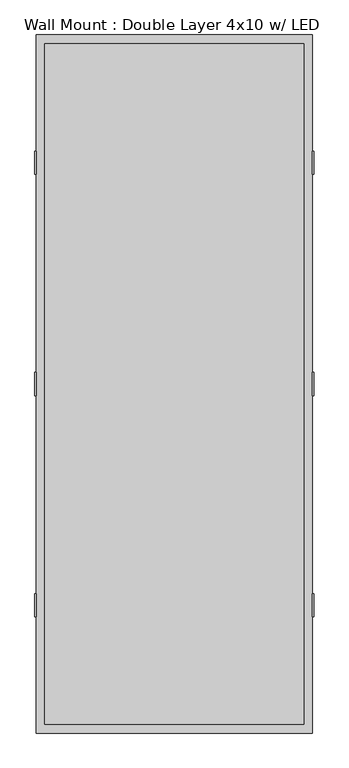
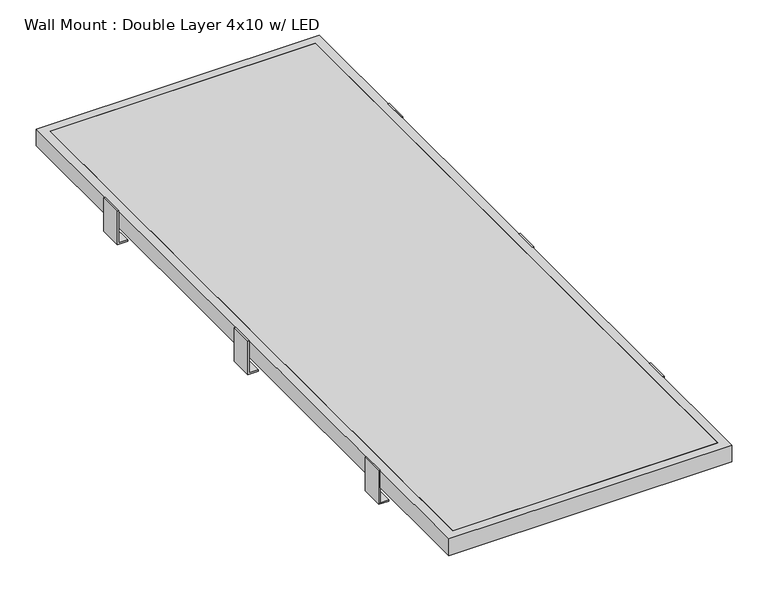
"""IFC4 building model written with IfcOpenShell, lengths in millimetres: proxy geometry, Wall Mount : Double Layer 4x10 w/ LED."""

from ifc_helpers import new_model, si_unit, frame, origin, place, context, project, spatial, polyline, outline, extrude, source, transform, mapped, element, save


def wall_mount_double_layer_4x10_w_led_b86ccbe1(model_context):
    return source(origin(), model_context, "Body", "SweptSolid", [
        extrude(outline(polyline([(571.5, 1501.775), (571.5, -1501.775), (-571.5, -1501.775), (-571.5, 1501.775), (571.5, 1501.775)])), frame((0.0, 0.0, 76.2), z_axis=(0.0, 0.0, 1.0), x_axis=(1.0, 0.0, 0.0)), (0.0, 0.0, 1.0), 76.2),
        extrude(outline(polyline([(571.5, 1501.775), (571.5, -1501.775), (-571.5, -1501.775), (-571.5, 1501.775), (571.5, 1501.775)]), holes=[polyline([(565.15, 1495.425), (-565.15, 1495.425), (-565.15, -1495.425), (565.15, -1495.425), (565.15, 1495.425)])]), frame((0.0, 0.0, 79.375), z_axis=(0.0, 0.0, 1.0), x_axis=(1.0, 0.0, 0.0)), (0.0, 0.0, 1.0), 63.5),
        extrude(outline(polyline([(571.5, 1501.775), (571.5, -1501.775), (-571.5, -1501.775), (-571.5, 1501.775), (571.5, 1501.775)])), frame((0.0, 0.0, 79.375), z_axis=(0.0, 0.0, 1.0), x_axis=(1.0, 0.0, 0.0)), (0.0, 0.0, 1.0), 6.35),
        extrude(outline(polyline([(0.0, -615.95), (0.0, -571.5), (6.35, -571.5), (6.35, -609.6), (152.4, -609.6), (152.4, -615.95), (0.0, -615.95)])), frame((0.0, -50.8, 0.0), z_axis=(0.0, 1.0, 0.0), x_axis=(0.0, 0.0, 1.0)), (0.0, 0.0, 1.0), 101.6),
        extrude(outline(polyline([(0.0, 615.95), (152.4, 615.95), (152.4, 609.6), (6.35, 609.6), (6.35, 571.5), (0.0, 571.5), (0.0, 615.95)])), frame((0.0, -50.8, 0.0), z_axis=(0.0, 1.0, 0.0), x_axis=(0.0, 0.0, 1.0)), (0.0, 0.0, 1.0), 101.6),
        extrude(outline(polyline([(0.0, -615.95), (0.0, -571.5), (6.35, -571.5), (6.35, -609.6), (152.4, -609.6), (152.4, -615.95), (0.0, -615.95)])), frame((0.0, 924.9833333, 0.0), z_axis=(0.0, 1.0, 0.0), x_axis=(0.0, 0.0, 1.0)), (0.0, 0.0, 1.0), 101.6),
        extrude(outline(polyline([(0.0, 615.95), (152.4, 615.95), (152.4, 609.6), (6.35, 609.6), (6.35, 571.5), (0.0, 571.5), (0.0, 615.95)])), frame((0.0, 924.9833333, 0.0), z_axis=(0.0, 1.0, 0.0), x_axis=(0.0, 0.0, 1.0)), (0.0, 0.0, 1.0), 101.6),
        extrude(outline(polyline([(0.0, -615.95), (0.0, -571.5), (6.35, -571.5), (6.35, -609.6), (152.4, -609.6), (152.4, -615.95), (0.0, -615.95)])), frame((0.0, -1026.5833333, 0.0), z_axis=(0.0, 1.0, 0.0), x_axis=(0.0, 0.0, 1.0)), (0.0, 0.0, 1.0), 101.6),
        extrude(outline(polyline([(0.0, 615.95), (152.4, 615.95), (152.4, 609.6), (6.35, 609.6), (6.35, 571.5), (0.0, 571.5), (0.0, 615.95)])), frame((0.0, -1026.5833333, 0.0), z_axis=(0.0, 1.0, 0.0), x_axis=(0.0, 0.0, 1.0)), (0.0, 0.0, 1.0), 101.6),
        extrude(outline(polyline([(571.5, 1501.775), (571.5, -1501.775), (-571.5, -1501.775), (-571.5, 1501.775), (571.5, 1501.775)])), frame((0.0, 0.0, 142.875), z_axis=(0.0, 0.0, 1.0), x_axis=(1.0, 0.0, 0.0)), (0.0, 0.0, 1.0), 6.35),
        extrude(outline(polyline([(609.6, 1539.875), (609.6, -1539.875), (-609.6, -1539.875), (-609.6, 1539.875), (609.6, 1539.875)]), holes=[polyline([(571.5, 1501.775), (-571.5, 1501.775), (-571.5, -1501.775), (571.5, -1501.775), (571.5, 1501.775)])]), frame((0.0, 0.0, 76.2), z_axis=(0.0, 0.0, 1.0), x_axis=(1.0, 0.0, 0.0)), (0.0, 0.0, 1.0), 76.2),
    ])


if __name__ == "__main__":
    model = new_model("IFC4")
    model_context = context("Model", 3, world=origin())
    ifc_project = project(units=[si_unit("LENGTHUNIT", "METRE", prefix="MILLI")], contexts=[model_context])
    site = spatial("IfcSite", under=ifc_project)
    building = spatial("IfcBuilding", under=site)
    placement = place(None, origin())
    wall_mount_double_layer_4x10_w_led_shape = wall_mount_double_layer_4x10_w_led_b86ccbe1(model_context)
    element("IfcBuildingElementProxy", 1, Name="Wall Mount : Double Layer 4x10 w/ LED", ObjectType="Wall Mount : Double Layer 4x10 w/ LED", at=placement, inside=building, context=model_context, shape_type="MappedRepresentation", body=[
        mapped(wall_mount_double_layer_4x10_w_led_shape, transform((0.0, 0.0, 0.0), x_axis=(1.0, 0.0, 0.0), y_axis=(0.0, 1.0, 0.0), z_axis=(0.0, 0.0, 1.0))),
    ])
    save(model, "model.ifc")
